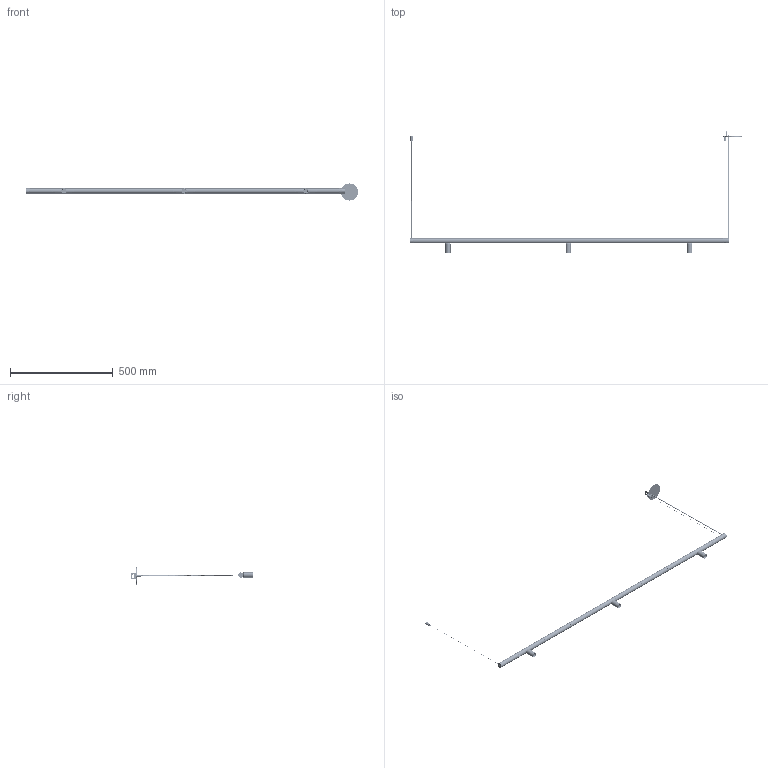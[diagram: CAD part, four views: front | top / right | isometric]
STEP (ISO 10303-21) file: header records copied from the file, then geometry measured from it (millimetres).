
FILE_DESCRIPTION (( 'STEP AP214' ), '1' );
FILE_NAME ('OVAL SPOT 15 rec.STEP', '2024-03-15T08:48:41', ( '' ), ( '' ), 'SwSTEP 2.0', 'SolidWorks 2024', '' );
FILE_SCHEMA (( 'AUTOMOTIVE_DESIGN' ));
Length unit declared in the file: millimetre
Products named in the file (41): Cable acero_0.5m; Ensamble Conector Jack Unión_Alimentación Colgante SCPRE; Regulador Cable Ø0.6 (Bereta LT1007.0601); Taco Micro_Ø10 M10*5; Ensamblaje FLORON EMP. MICRO; 04-23DM02-Adaptador_Tapa(V1.2)_24V; OVAL SPOT 15 rec; Tapa Unión-Final V5_V5.1 Colgante Union ; 04-23DM03-Tope_Adaptador_1.3; DM05-Tapa SPOT(V1.2); Boca Focus 25_ZDNTL; Tapa Micro V5_V5.1; CJ01-ENS_Adaptador 24V_Proyector; BLX V-4 Single Array; Tapon Tapa_2; Difusor Negro Oval_0.1m; Floron U Muelle MICRO; Conector Molex Hembra 43020; Tapa Floron Emp. MICRO_Tapa empotarable; Difusor Negro Oval_0.47m; Jack_Scpre; Tapa Alimentación Perfil_SCPRE; Tija Tiny_Inyección ; countersunk flat head cross recess screw_din_DIN EN ISO 7046-1 - M2.5 x 6 - Z - 6N; Tuerca M8_Predeterminada; Driver Entity EN1689; CUI_DEVICES_PJ-005B_Ø2.5; Tubo Alu. Focus 25_V3-30-09-21; Prisionero STEAB M4x4_8; Taco cuerpo Micro; Perfil Micro V4_1.5m; Tuerca Hembra Conector Jack; eje cable colgante_M8 MICRO; Ensamble Tensor Micro_Con Cable; CJ04 - ENS Foco Spot (V1.2)_V3 09-20; Holder; Lente -115.11.HILL-20-22°-CREE; Ensamble Led; Ensamble Tapa + Tope_Con Conector; Cable_VISUAL Alimentación Micro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
Assembly tree (52 placements, depth 4):
  OVAL SPOT 15 rec
    Perfil Micro V4_1.5m
    CJ01-ENS_Adaptador 24V_Proyector  x3
      04-23DM01-Adaptador_Caja_DM01.3
      04-23DM02-Adaptador_Tapa(V1.2)_24V
      Conector Molex Hembra 43020
      Driver Entity EN1689
      04-23DM03-Tope_Adaptador_1.3
      Tija Tiny_Inyección 
    CJ04 - ENS Foco Spot (V1.2)_V3 09-20  x3
      Tubo Alu. Focus 25_V3-30-09-21
      Boca Focus 25_ZDNTL
      Ensamble Led
        BLX V-4 Single Array
        Holder
        countersunk flat head cross recess screw_din_DIN EN ISO 7046-1 - M2.5 x 6 - Z - 6N  x2
      Prisionero STEAB M4x4_8
      Lente -115.11.HILL-20-22°-CREE
      DM05-Tapa SPOT(V1.2)
    Difusor Negro Oval_0.1m  x2
    Difusor Negro Oval_0.47m  x2
    Ensamble Tapa + Tope_Con Conector  x2
      Tapa Micro V5_V5.1
      CUI_DEVICES_PJ-005B_Ø2.5
      Tuerca Hembra Conector Jack
    Ensamble Tensor Micro_Con Cable  x2
      Taco Micro_Ø10 M10*5
      Taco cuerpo Micro
      Regulador Cable Ø0.6 (Bereta LT1007.0601)
      Cable acero_0.5m
    Tapa Unión-Final V5_V5.1 Colgante Union   x2
    Ensamble Conector Jack Unión_Alimentación Colgante SCPRE
      Cable_VISUAL Alimentación Micro
      Jack_Scpre
      Tapa Alimentación Perfil_SCPRE
      Prisionero STEAB M4x4_8
    Ensamblaje FLORON EMP. MICRO
      Tapa Floron Emp. MICRO_Tapa empotarable
      Floron U Muelle MICRO
      eje cable colgante_M8 MICRO
      Tuerca M8_Predeterminada
    Tapon Tapa_2
Bounding box: 1611.94 x 590.07 x 83.01 mm (x, y, z)
Volume: 327312 mm3; surface area: 424454.1 mm2
Topology: 76 solids, 123 shells, 5825 faces, 15458 edges, 9901 vertices
Faces by surface type: plane 2232, cylinder 2052, bspline 708, torus 415, cone 308, sphere 110
Entity records: 114811 total; most frequent: CARTESIAN_POINT 61216, ORIENTED_EDGE 11691, DIRECTION 10015, EDGE_CURVE 5893, VERTEX_POINT 3835, AXIS2_PLACEMENT_3D 3701, LINE 2613, VECTOR 2613
